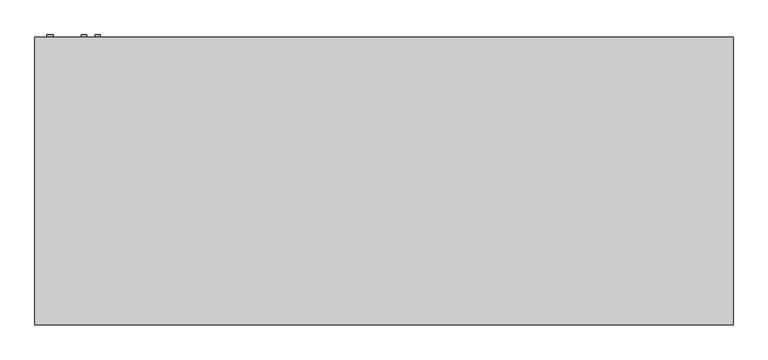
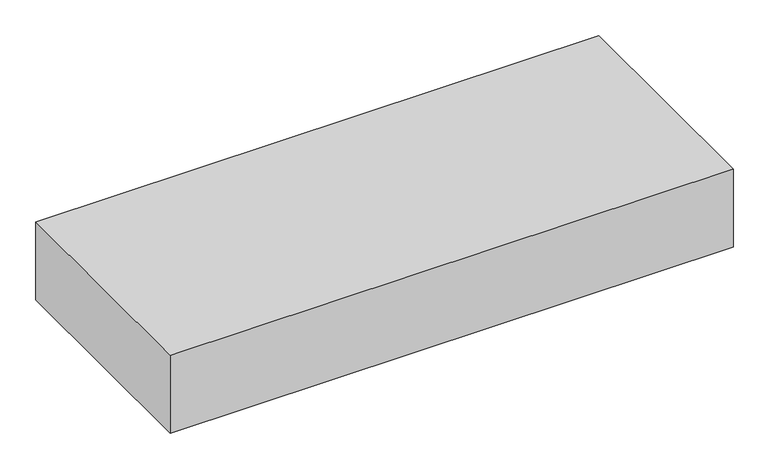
"""IFC4 building model written with IfcOpenShell, lengths in millimetres: proxy geometry, Exposed_Horizontal_Fan_Coil_Unit_-_42CGB_-_CARRIER_-_2-Pipe_Cool-EHeat_BS-BR_LH_2022 : Size 12 - 277v/60Hz/1Ph - 4 Row 10.0kW."""

from ifc_helpers import new_model, si_unit, point, frame, frame_2d, origin, place, context, project, spatial, polyline, circle_curve, trimmed, segment, composite_curve, outline, extrude, source, transform, mapped, element, save


def mechanical_equipment_6e790af8(model_context):
    return source(origin(), model_context, "Body", "SweptSolid", [
        extrude(outline(polyline([(925.5125, -433.3875), (925.5125, -604.8375), (-620.7125, -604.8375), (-620.7125, -433.3875), (925.5125, -433.3875)])), frame((0.0, 0.0, -311.15), z_axis=(0.0, 0.0, 1.0), x_axis=(1.0, 0.0, 0.0)), (0.0, 0.0, 1.0), 6.35),
        extrude(outline(composite_curve([segment(trimmed(circle_curve(frame_2d((-60.325, -701.675)), 7.9375), [point((-60.325, -693.7375))], [point((-60.325, -709.6125))], False, "CARTESIAN"), True, "CONTINUOUS"), segment(trimmed(circle_curve(frame_2d((-60.325, -701.675)), 7.9375), [point((-60.325, -709.6125))], [point((-60.325, -693.7375))], False, "CARTESIAN"), True, "CONTINUOUS")], self_intersect=False)), frame((0.0, 192.0875, 0.0), z_axis=(0.0, 1.0, 0.0), x_axis=(0.0, 0.0, 1.0)), (0.0, 0.0, 1.0), 6.35),
        extrude(outline(composite_curve([segment(trimmed(circle_curve(frame_2d((-95.25, -742.95)), 7.9375), [point((-95.25, -735.0125))], [point((-95.25, -750.8875))], False, "CARTESIAN"), True, "CONTINUOUS"), segment(trimmed(circle_curve(frame_2d((-95.25, -742.95)), 7.9375), [point((-95.25, -750.8875))], [point((-95.25, -735.0125))], False, "CARTESIAN"), True, "CONTINUOUS")], self_intersect=False)), frame((0.0, 192.0875, 0.0), z_axis=(0.0, 1.0, 0.0), x_axis=(0.0, 0.0, 1.0)), (0.0, 0.0, 1.0), 6.35),
        extrude(outline(composite_curve([segment(trimmed(circle_curve(frame_2d((-260.35, -844.55)), 9.525), [point((-260.35, -835.025))], [point((-260.35, -854.075))], False, "CARTESIAN"), True, "CONTINUOUS"), segment(trimmed(circle_curve(frame_2d((-260.35, -844.55)), 9.525), [point((-260.35, -854.075))], [point((-260.35, -835.025))], False, "CARTESIAN"), True, "CONTINUOUS")], self_intersect=False)), frame((0.0, 192.0875, 0.0), z_axis=(0.0, 1.0, 0.0), x_axis=(0.0, 0.0, 1.0)), (0.0, 0.0, 1.0), 6.35),
        extrude(outline(polyline([(-889.0, 192.0875), (1193.8, 192.0875), (1193.8, -668.3375), (-889.0, -668.3375), (-889.0, 192.0875)])), frame((0.0, 0.0, -304.8), z_axis=(0.0, 0.0, 1.0), x_axis=(1.0, 0.0, 0.0)), (0.0, 0.0, 1.0), 304.8),
        extrude(outline(polyline([(952.5, 115.8875), (952.5, -138.1125), (-647.7, -138.1125), (-647.7, 115.8875), (952.5, 115.8875)])), frame((0.0, 0.0, -311.15), z_axis=(0.0, 0.0, 1.0), x_axis=(1.0, 0.0, 0.0)), (0.0, 0.0, 1.0), 6.35),
    ])


if __name__ == "__main__":
    model = new_model("IFC4")
    model_context = context("Model", 3, world=origin())
    ifc_project = project(units=[si_unit("LENGTHUNIT", "METRE", prefix="MILLI")], contexts=[model_context])
    site = spatial("IfcSite", under=ifc_project)
    building = spatial("IfcBuilding", under=site)
    placement = place(None, origin())
    mechanical_equipment_shape = mechanical_equipment_6e790af8(model_context)
    element("IfcBuildingElementProxy", 1, Name="Exposed_Horizontal_Fan_Coil_Unit_-_42CGB_-_CARRIER_-_2-Pipe_Cool-EHeat_BS-BR_LH_2022 : Size 12 - 277v/60Hz/1Ph - 4 Row 10.0kW", ObjectType="Exposed_Horizontal_Fan_Coil_Unit_-_42CGB_-_CARRIER_-_2-Pipe_Cool-EHeat_BS-BR_LH_2022 : Size 12 - 277v/60Hz/1Ph - 4 Row 10.0kW", at=placement, inside=building, context=model_context, shape_type="MappedRepresentation", body=[
        mapped(mechanical_equipment_shape, transform((0.0, 0.0, 0.0), x_axis=(1.0, 0.0, 0.0), y_axis=(0.0, 1.0, 0.0), z_axis=(0.0, 0.0, 1.0))),
    ])
    save(model, "model.ifc")
